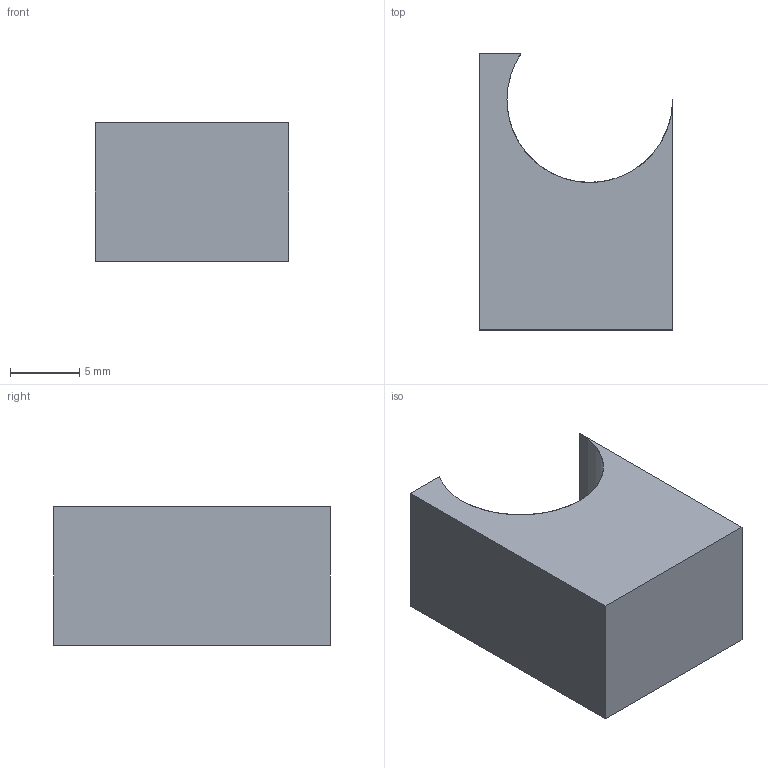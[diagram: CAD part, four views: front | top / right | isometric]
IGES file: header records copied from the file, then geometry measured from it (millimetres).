
Start section: SolidWorks IGES file using analytic representation for surfaces
Global section: file name: C:\Documents and Settings\ARGE\Desktop\yeni katalog tolgay düzenli\E kataloðu\ALPOLEN 1000 YD1 KAYIÞ KIZAKLARI\export\207 CY1 001.IGS; native system: SolidWorks 2006 by SolidWorks Corporation; preprocessor: SolidWorks 2006 by SolidWorks Corporation; author: ARGE2; date: 060913.094145; units: millimetre
Bounding box: 14 x 20 x 10 mm (x, y, z)
Surface area: 1129.9 mm2 (no closed solid volume)
Topology: 0 solids, 0 shells, 8 faces, 72 edges, 72 vertices
Faces by surface type: bspline 6, revolution 2
